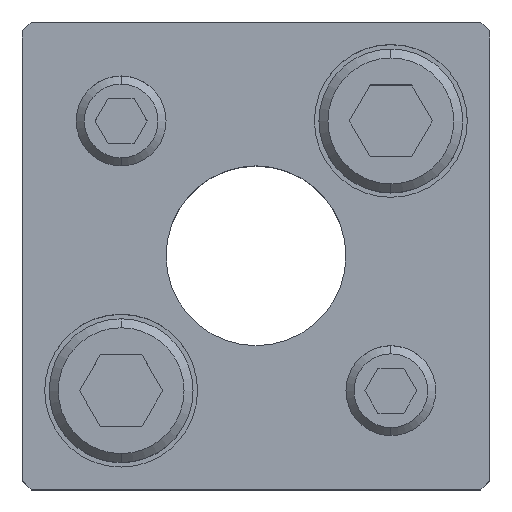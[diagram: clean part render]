
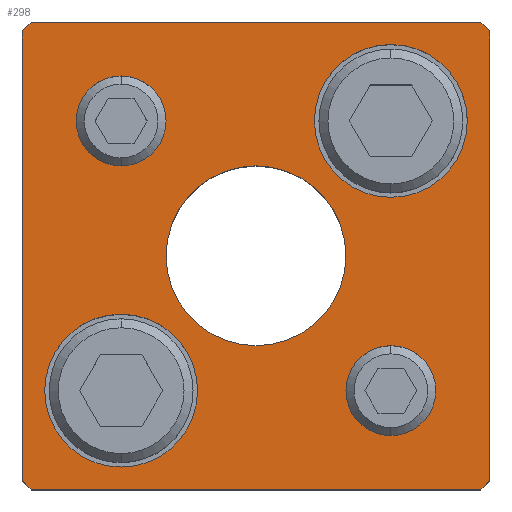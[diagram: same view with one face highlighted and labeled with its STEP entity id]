
A CAD part, top view. The second image highlights one B-rep face of the part: STEP entity #298.
In plain terms, the highlighted planar face has unit normal (0, 0, 1).
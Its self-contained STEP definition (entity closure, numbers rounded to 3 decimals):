
#155=PLANE('',#2455);
#222=FACE_BOUND('',#611,.T.);
#223=FACE_BOUND('',#612,.T.);
#224=FACE_BOUND('',#613,.T.);
#225=FACE_BOUND('',#614,.T.);
#226=FACE_BOUND('',#615,.T.);
#227=FACE_BOUND('',#616,.T.);
#298=ADVANCED_FACE('',(#222,#223,#224,#225,#226,#227),#155,.T.);
#611=EDGE_LOOP('',(#1291,#1292,#1293,#1294,#1295,#1296,#1297,#1298));
#612=EDGE_LOOP('',(#1299,#1300));
#613=EDGE_LOOP('',(#1301,#1302));
#614=EDGE_LOOP('',(#1303,#1304));
#615=EDGE_LOOP('',(#1305,#1306));
#616=EDGE_LOOP('',(#1307,#1308));
#762=LINE('',#3573,#948);
#763=LINE('',#3576,#949);
#764=LINE('',#3578,#950);
#765=LINE('',#3580,#951);
#766=LINE('',#3582,#952);
#767=LINE('',#3584,#953);
#768=LINE('',#3586,#954);
#769=LINE('',#3588,#955);
#948=VECTOR('',#2859,1.);
#949=VECTOR('',#2860,1.);
#950=VECTOR('',#2861,1.);
#951=VECTOR('',#2862,1.);
#952=VECTOR('',#2863,1.);
#953=VECTOR('',#2864,1.);
#954=VECTOR('',#2865,1.);
#955=VECTOR('',#2866,1.);
#1291=ORIENTED_EDGE('',*,*,#2022,.T.);
#1292=ORIENTED_EDGE('',*,*,#2023,.T.);
#1293=ORIENTED_EDGE('',*,*,#2024,.T.);
#1294=ORIENTED_EDGE('',*,*,#2025,.T.);
#1295=ORIENTED_EDGE('',*,*,#2026,.T.);
#1296=ORIENTED_EDGE('',*,*,#2027,.T.);
#1297=ORIENTED_EDGE('',*,*,#2028,.T.);
#1298=ORIENTED_EDGE('',*,*,#2029,.T.);
#1299=ORIENTED_EDGE('',*,*,#2030,.F.);
#1300=ORIENTED_EDGE('',*,*,#2031,.F.);
#1301=ORIENTED_EDGE('',*,*,#2032,.F.);
#1302=ORIENTED_EDGE('',*,*,#2033,.F.);
#1303=ORIENTED_EDGE('',*,*,#2008,.F.);
#1304=ORIENTED_EDGE('',*,*,#2004,.F.);
#1305=ORIENTED_EDGE('',*,*,#2002,.F.);
#1306=ORIENTED_EDGE('',*,*,#1998,.F.);
#1307=ORIENTED_EDGE('',*,*,#2034,.T.);
#1308=ORIENTED_EDGE('',*,*,#2035,.T.);
#1769=VERTEX_POINT('',#3524);
#1770=VERTEX_POINT('',#3525);
#1773=VERTEX_POINT('',#3537);
#1774=VERTEX_POINT('',#3538);
#1785=VERTEX_POINT('',#3574);
#1786=VERTEX_POINT('',#3575);
#1787=VERTEX_POINT('',#3577);
#1788=VERTEX_POINT('',#3579);
#1789=VERTEX_POINT('',#3581);
#1790=VERTEX_POINT('',#3583);
#1791=VERTEX_POINT('',#3585);
#1792=VERTEX_POINT('',#3587);
#1793=VERTEX_POINT('',#3590);
#1794=VERTEX_POINT('',#3591);
#1795=VERTEX_POINT('',#3594);
#1796=VERTEX_POINT('',#3595);
#1797=VERTEX_POINT('',#3598);
#1798=VERTEX_POINT('',#3599);
#1998=EDGE_CURVE('',#1769,#1770,#2267,.T.);
#2002=EDGE_CURVE('',#1770,#1769,#2269,.T.);
#2004=EDGE_CURVE('',#1773,#1774,#2271,.T.);
#2008=EDGE_CURVE('',#1774,#1773,#2273,.T.);
#2022=EDGE_CURVE('',#1785,#1786,#762,.T.);
#2023=EDGE_CURVE('',#1786,#1787,#763,.T.);
#2024=EDGE_CURVE('',#1787,#1788,#764,.T.);
#2025=EDGE_CURVE('',#1788,#1789,#765,.T.);
#2026=EDGE_CURVE('',#1789,#1790,#766,.T.);
#2027=EDGE_CURVE('',#1790,#1791,#767,.T.);
#2028=EDGE_CURVE('',#1791,#1792,#768,.T.);
#2029=EDGE_CURVE('',#1792,#1785,#769,.T.);
#2030=EDGE_CURVE('',#1793,#1794,#2283,.T.);
#2031=EDGE_CURVE('',#1794,#1793,#2284,.T.);
#2032=EDGE_CURVE('',#1795,#1796,#2285,.T.);
#2033=EDGE_CURVE('',#1796,#1795,#2286,.T.);
#2034=EDGE_CURVE('',#1797,#1798,#2287,.T.);
#2035=EDGE_CURVE('',#1798,#1797,#2288,.T.);
#2267=CIRCLE('',#2423,5.);
#2269=CIRCLE('',#2426,5.);
#2271=CIRCLE('',#2430,5.);
#2273=CIRCLE('',#2433,5.);
#2283=CIRCLE('',#2449,8.5);
#2284=CIRCLE('',#2450,8.5);
#2285=CIRCLE('',#2451,8.5);
#2286=CIRCLE('',#2452,8.5);
#2287=CIRCLE('',#2453,10.);
#2288=CIRCLE('',#2454,10.);
#2423=AXIS2_PLACEMENT_3D('',#3523,#2799,#2800);
#2426=AXIS2_PLACEMENT_3D('',#3532,#2807,#2808);
#2430=AXIS2_PLACEMENT_3D('',#3536,#2815,#2816);
#2433=AXIS2_PLACEMENT_3D('',#3545,#2823,#2824);
#2449=AXIS2_PLACEMENT_3D('',#3589,#2867,#2868);
#2450=AXIS2_PLACEMENT_3D('',#3592,#2869,#2870);
#2451=AXIS2_PLACEMENT_3D('',#3593,#2871,#2872);
#2452=AXIS2_PLACEMENT_3D('',#3596,#2873,#2874);
#2453=AXIS2_PLACEMENT_3D('',#3597,#2875,#2876);
#2454=AXIS2_PLACEMENT_3D('',#3600,#2877,#2878);
#2455=AXIS2_PLACEMENT_3D('',#3601,#2879,#2880);
#2799=DIRECTION('',(0.,0.,1.));
#2800=DIRECTION('',(-1.,0.,0.));
#2807=DIRECTION('',(0.,0.,1.));
#2808=DIRECTION('',(1.,0.,0.));
#2815=DIRECTION('',(0.,0.,1.));
#2816=DIRECTION('',(-1.,0.,0.));
#2823=DIRECTION('',(0.,0.,1.));
#2824=DIRECTION('',(1.,0.,0.));
#2859=DIRECTION('',(0.707,0.707,0.));
#2860=DIRECTION('',(0.,1.,0.));
#2861=DIRECTION('',(-0.707,0.707,0.));
#2862=DIRECTION('',(-1.,0.,0.));
#2863=DIRECTION('',(-0.707,-0.707,0.));
#2864=DIRECTION('',(0.,-1.,0.));
#2865=DIRECTION('',(0.707,-0.707,0.));
#2866=DIRECTION('',(1.,0.,0.));
#2867=DIRECTION('',(0.,0.,1.));
#2868=DIRECTION('',(1.,0.,0.));
#2869=DIRECTION('',(0.,0.,1.));
#2870=DIRECTION('',(-1.,0.,0.));
#2871=DIRECTION('',(0.,0.,1.));
#2872=DIRECTION('',(1.,0.,0.));
#2873=DIRECTION('',(0.,0.,1.));
#2874=DIRECTION('',(-1.,0.,0.));
#2875=DIRECTION('',(0.,0.,-1.));
#2876=DIRECTION('',(-1.,0.,0.));
#2877=DIRECTION('',(0.,0.,-1.));
#2878=DIRECTION('',(1.,0.,0.));
#2879=DIRECTION('',(0.,0.,1.));
#2880=DIRECTION('',(-1.,0.,0.));
#3523=CARTESIAN_POINT('',(15.,-15.,30.));
#3524=CARTESIAN_POINT('',(15.,-20.,30.));
#3525=CARTESIAN_POINT('',(15.,-10.,30.));
#3532=CARTESIAN_POINT('',(15.,-15.,30.));
#3536=CARTESIAN_POINT('',(-15.,15.,30.));
#3537=CARTESIAN_POINT('',(-15.,10.,30.));
#3538=CARTESIAN_POINT('',(-15.,20.,30.));
#3545=CARTESIAN_POINT('',(-15.,15.,30.));
#3573=CARTESIAN_POINT('',(25.,-26.,30.));
#3574=CARTESIAN_POINT('',(25.,-26.,30.));
#3575=CARTESIAN_POINT('',(26.,-25.,30.));
#3576=CARTESIAN_POINT('',(26.,25.,30.));
#3577=CARTESIAN_POINT('',(26.,25.,30.));
#3578=CARTESIAN_POINT('',(26.,25.,30.));
#3579=CARTESIAN_POINT('',(25.,26.,30.));
#3580=CARTESIAN_POINT('',(-25.,26.,30.));
#3581=CARTESIAN_POINT('',(-25.,26.,30.));
#3582=CARTESIAN_POINT('',(-25.,26.,30.));
#3583=CARTESIAN_POINT('',(-26.,25.,30.));
#3584=CARTESIAN_POINT('',(-26.,25.,30.));
#3585=CARTESIAN_POINT('',(-26.,-25.,30.));
#3586=CARTESIAN_POINT('',(-26.,-25.,30.));
#3587=CARTESIAN_POINT('',(-25.,-26.,30.));
#3588=CARTESIAN_POINT('',(-25.,-26.,30.));
#3589=CARTESIAN_POINT('',(15.,15.,30.));
#3590=CARTESIAN_POINT('',(15.,23.5,30.));
#3591=CARTESIAN_POINT('',(15.,6.5,30.));
#3592=CARTESIAN_POINT('',(15.,15.,30.));
#3593=CARTESIAN_POINT('',(-15.,-15.,30.));
#3594=CARTESIAN_POINT('',(-15.,-6.5,30.));
#3595=CARTESIAN_POINT('',(-15.,-23.5,30.));
#3596=CARTESIAN_POINT('',(-15.,-15.,30.));
#3597=CARTESIAN_POINT('',(0.,0.,30.));
#3598=CARTESIAN_POINT('',(0.,10.,30.));
#3599=CARTESIAN_POINT('',(0.,-10.,30.));
#3600=CARTESIAN_POINT('',(0.,0.,30.));
#3601=CARTESIAN_POINT('',(25.,-26.,30.));
